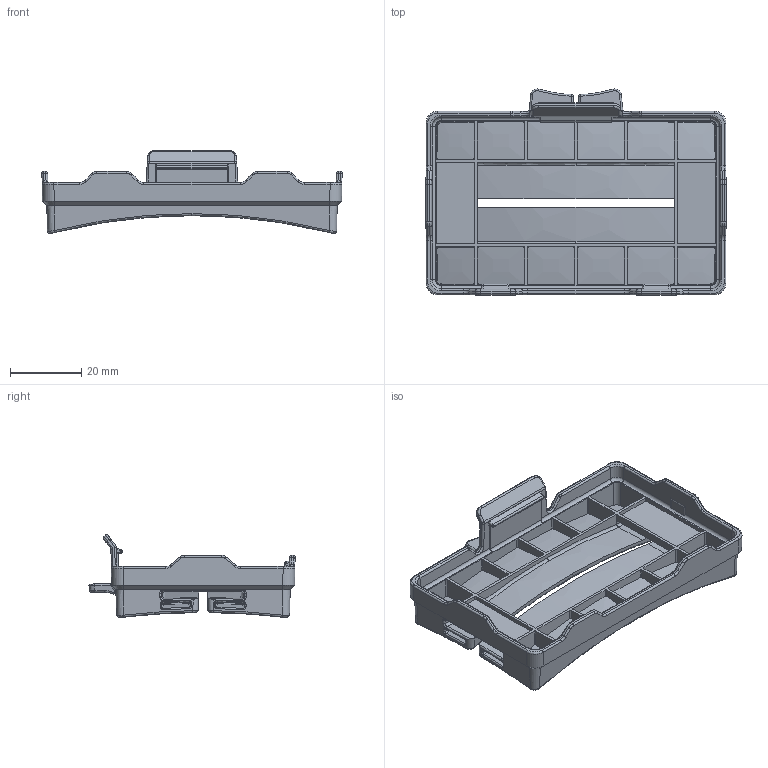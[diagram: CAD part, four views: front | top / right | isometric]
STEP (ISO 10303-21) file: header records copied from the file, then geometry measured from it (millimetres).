
FILE_DESCRIPTION((''),'2;1');
FILE_NAME('FSBUDDY_STRAP_MOUNT','2019-10-21T',('Administrator'),(''),'PRO/ENGINEER BY PARAMETRIC TECHNOLOGY CORPORATION, 2010280','PRO/ENGINEER BY PARAMETRIC TECHNOLOGY CORPORATION, 2010280','');
FILE_SCHEMA(('AUTOMOTIVE_DESIGN { 1 2 10303 214 0 1 1 1 }'));
Length unit declared in the file: millimetre
Products named in the file (1): FSBUDDY_STRAP_MOUNT
Bounding box: 84.01 x 57.7 x 23.13 mm (x, y, z)
Volume: 12474.9 mm3; surface area: 17653.1 mm2
Topology: 1 solids, 1 shells, 643 faces, 1546 edges, 924 vertices
Faces by surface type: bspline 234, cylinder 230, plane 163, sphere 8, cone 4, torus 4
Entity records: 27562 total; most frequent: CARTESIAN_POINT 14703, ORIENTED_EDGE 3092, DIRECTION 1980, EDGE_CURVE 1546, VERTEX_POINT 924, AXIS2_PLACEMENT_3D 687, EDGE_LOOP 664, B_SPLINE_CURVE_WITH_KNOTS 662
